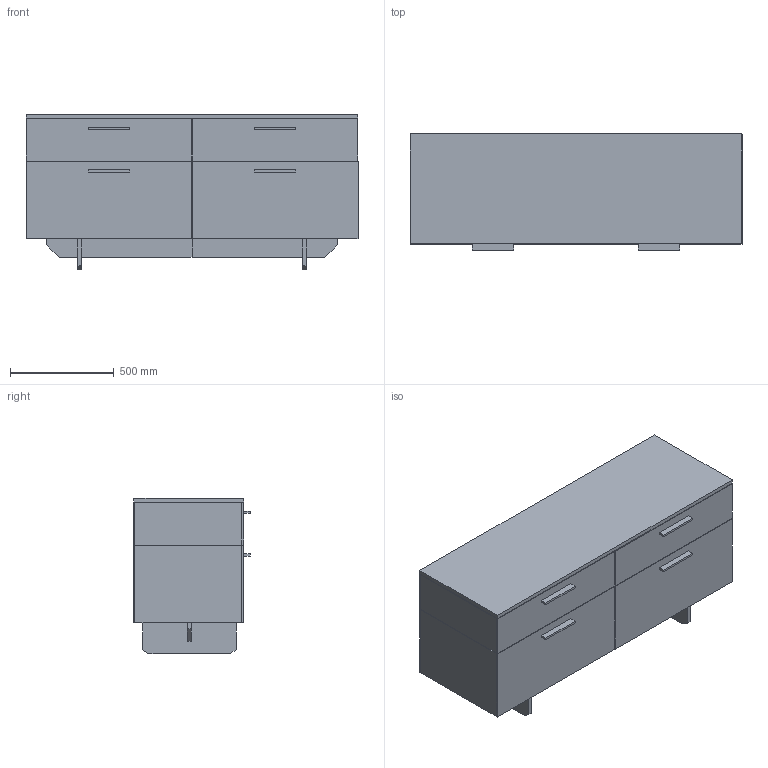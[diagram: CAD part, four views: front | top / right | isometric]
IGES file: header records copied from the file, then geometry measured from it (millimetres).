
Global section: file name: \\Archi-NAS\Comune\X GIOVANNI\MOBILI\ELEGNACE\ELEGANCE_glass + wood_02.igs; native system: Rhinoceros ( Feb 23 2021 ); preprocessor: Trout Lake IGES 012 Feb 23 2021; date: 230607.142918; units: millimetre
Bounding box: 1600 x 560 x 750 mm (x, y, z)
Surface area: 18928464.2 mm2 (no closed solid volume)
Topology: 0 solids, 0 shells, 286 faces, 1672 edges, 1672 vertices
Faces by surface type: bspline 286
